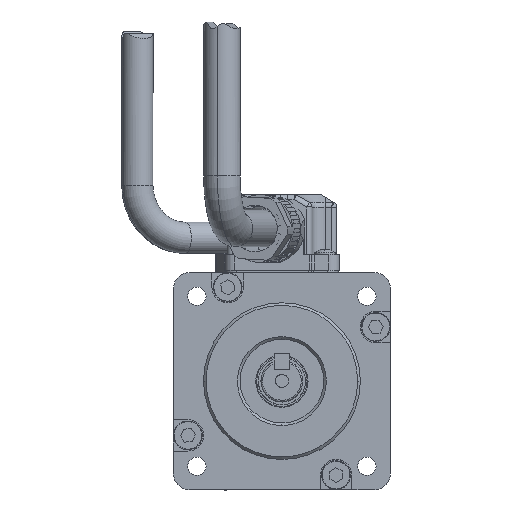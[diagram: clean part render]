
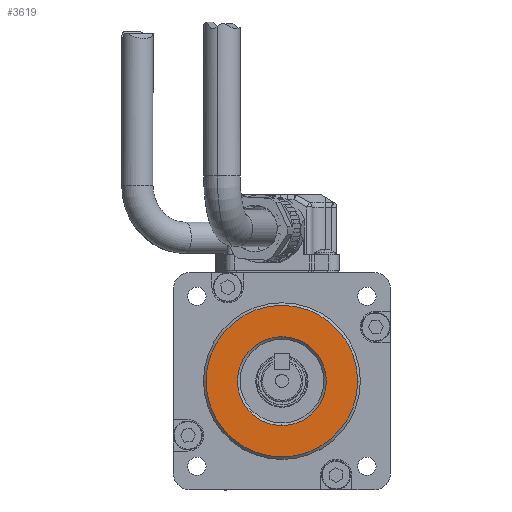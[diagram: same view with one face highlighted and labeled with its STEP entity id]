
A CAD part, top view. The second image highlights one B-rep face of the part: STEP entity #3619.
In plain terms, the highlighted planar face has unit normal (0, 0, 1).
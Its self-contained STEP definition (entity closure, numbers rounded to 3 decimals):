
#1101 = CARTESIAN_POINT ( 'NONE',  ( -44.709, 17.497, 59.514 ) ) ;
#1102 = CARTESIAN_POINT ( 'NONE',  ( -15.709, 17.497, 59.514 ) ) ;
#1129 = CARTESIAN_POINT ( 'NONE',  ( -30.209, 25.997, 59.514 ) ) ;
#1130 = CARTESIAN_POINT ( 'NONE',  ( -30.209, 8.997, 59.514 ) ) ;
#3465 = EDGE_CURVE ( 'NONE', #20898, #20896, #31300, .T. ) ;
#3468 = EDGE_CURVE ( 'NONE', #20842, #20840, #39204, .T. ) ;
#3619 = ADVANCED_FACE ( 'NONE', ( #38579, #38564 ), #38581, .F. ) ;
#8998 = CIRCLE ( 'NONE', #9000, 14.5 ) ;
#9000 = AXIS2_PLACEMENT_3D ( 'NONE', #16809, #16811, #16813 ) ;
#9029 = CIRCLE ( 'NONE', #9037, 8.5 ) ;
#9037 = AXIS2_PLACEMENT_3D ( 'NONE', #16994, #16996, #16998 ) ;
#11078 = EDGE_LOOP ( 'NONE', ( #28294, #28296 ) ) ;
#11084 = EDGE_LOOP ( 'NONE', ( #28290, #28292 ) ) ;
#16809 = CARTESIAN_POINT ( 'NONE',  ( -30.209, 17.497, 59.514 ) ) ;
#16811 = DIRECTION ( 'NONE',  ( 0., 0., -1. ) ) ;
#16813 = DIRECTION ( 'NONE',  ( -1., 0., 0. ) ) ;
#16994 = CARTESIAN_POINT ( 'NONE',  ( -30.209, 17.497, 59.514 ) ) ;
#16996 = DIRECTION ( 'NONE',  ( 0., 0., 1. ) ) ;
#16998 = DIRECTION ( 'NONE',  ( 0., -1., 0. ) ) ;
#20840 = VERTEX_POINT ( 'NONE', #1101 ) ;
#20842 = VERTEX_POINT ( 'NONE', #1102 ) ;
#20896 = VERTEX_POINT ( 'NONE', #1129 ) ;
#20898 = VERTEX_POINT ( 'NONE', #1130 ) ;
#26428 = EDGE_CURVE ( 'NONE', #20840, #20842, #8998, .T. ) ;
#26453 = EDGE_CURVE ( 'NONE', #20896, #20898, #9029, .T. ) ;
#28290 = ORIENTED_EDGE ( 'NONE', *, *, #3465, .F. ) ;
#28292 = ORIENTED_EDGE ( 'NONE', *, *, #26453, .F. ) ;
#28294 = ORIENTED_EDGE ( 'NONE', *, *, #26428, .F. ) ;
#28296 = ORIENTED_EDGE ( 'NONE', *, *, #3468, .F. ) ;
#31297 = AXIS2_PLACEMENT_3D ( 'NONE', #37740, #37741, #37742 ) ;
#31300 = CIRCLE ( 'NONE', #31297, 8.5 ) ;
#37740 = CARTESIAN_POINT ( 'NONE',  ( -30.209, 17.497, 59.514 ) ) ;
#37741 = DIRECTION ( 'NONE',  ( 0., 0., 1. ) ) ;
#37742 = DIRECTION ( 'NONE',  ( 0., -1., 0. ) ) ;
#37750 = CARTESIAN_POINT ( 'NONE',  ( -30.209, 17.497, 59.514 ) ) ;
#37751 = DIRECTION ( 'NONE',  ( 0., 0., -1. ) ) ;
#37752 = DIRECTION ( 'NONE',  ( -1., 0., 0. ) ) ;
#38564 = FACE_OUTER_BOUND ( 'NONE', #11078, .T. ) ;
#38572 = CARTESIAN_POINT ( 'NONE',  ( -30.209, 32.497, 59.514 ) ) ;
#38579 = FACE_BOUND ( 'NONE', #11084, .T. ) ;
#38581 = PLANE ( 'NONE',  #39556 ) ;
#38584 = DIRECTION ( 'NONE',  ( 0., 0., -1. ) ) ;
#38586 = DIRECTION ( 'NONE',  ( -1., 0., 0. ) ) ;
#39204 = CIRCLE ( 'NONE', #39206, 14.5 ) ;
#39206 = AXIS2_PLACEMENT_3D ( 'NONE', #37750, #37751, #37752 ) ;
#39556 = AXIS2_PLACEMENT_3D ( 'NONE', #38572, #38584, #38586 ) ;
